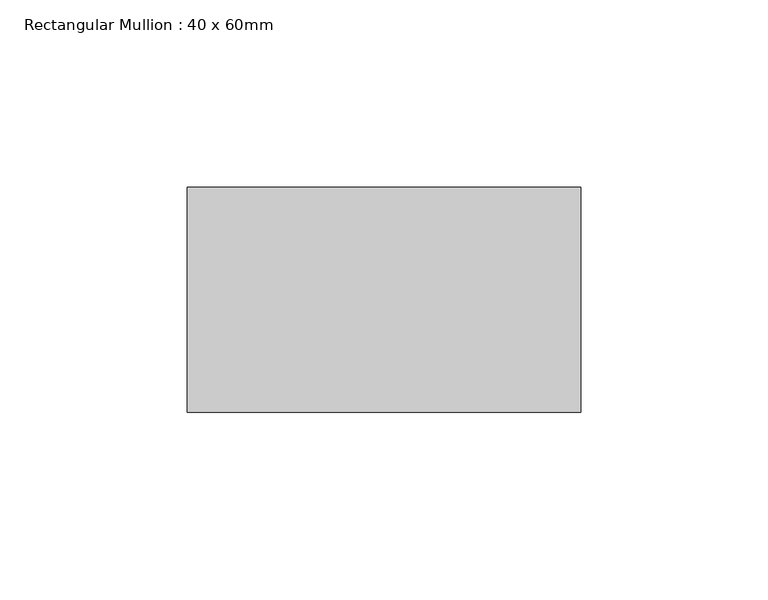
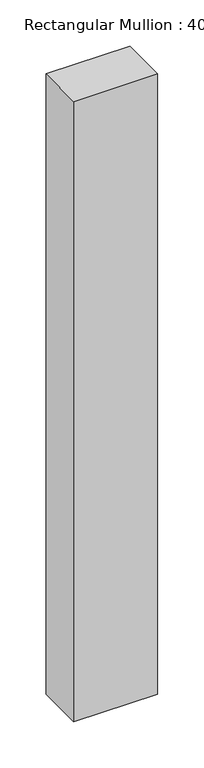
"""IFC4 building model written with IfcOpenShell, lengths in millimetres: member geometry, Rectangular Mullion : 40 x 60mm."""

from ifc_helpers import new_model, si_unit, frame, origin, place, context, project, spatial, polyline, outline, extrude, source, transform, mapped, element, save


def rectangular_mullion_40_x_60mm_bba9f7df(model_context):
    return source(origin(), model_context, "Body", "SweptSolid", [
        extrude(outline(polyline([(80.0, -10.0), (80.0, -70.0), (-25.0, -70.0), (-25.0, -10.0), (80.0, -10.0)])), frame((0.0, 0.0, -820.0), z_axis=(0.0, 0.0, 1.0), x_axis=(1.0, 0.0, 0.0)), (0.0, 0.0, 1.0), 820.0),
    ])


if __name__ == "__main__":
    model = new_model("IFC4")
    model_context = context("Model", 3, world=origin())
    ifc_project = project(units=[si_unit("LENGTHUNIT", "METRE", prefix="MILLI")], contexts=[model_context])
    site = spatial("IfcSite", under=ifc_project)
    building = spatial("IfcBuilding", under=site)
    placement = place(None, origin())
    rectangular_mullion_40_x_60mm_shape = rectangular_mullion_40_x_60mm_bba9f7df(model_context)
    element("IfcMember", 1, ObjectType="Rectangular Mullion : 40 x 60mm", at=placement, inside=building, context=model_context, shape_type="MappedRepresentation", body=[
        mapped(rectangular_mullion_40_x_60mm_shape, transform((0.0, 0.0, 0.0), x_axis=(1.0, 0.0, 0.0), y_axis=(0.0, 1.0, 0.0), z_axis=(0.0, 0.0, 1.0))),
    ])
    save(model, "model.ifc")
